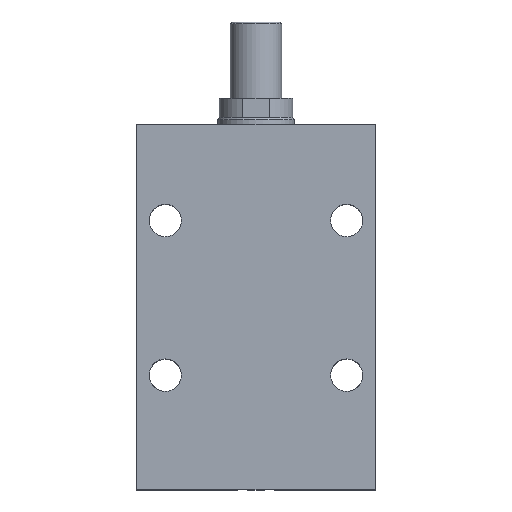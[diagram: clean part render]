
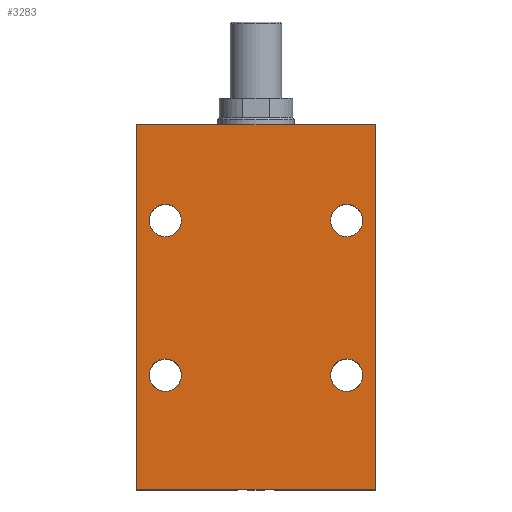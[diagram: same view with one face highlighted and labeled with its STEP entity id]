
A CAD part, top view. The second image highlights one B-rep face of the part: STEP entity #3283.
In plain terms, the highlighted planar face has unit normal (0, 0, 1).
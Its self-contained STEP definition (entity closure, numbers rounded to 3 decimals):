
#10 = LINE ( 'NONE', #705, #2853 ) ;
#13 = CARTESIAN_POINT ( 'NONE',  ( -39., 60., 47.5 ) ) ;
#71 = CARTESIAN_POINT ( 'NONE',  ( 62.5, 0., 47.5 ) ) ;
#114 = LINE ( 'NONE', #1668, #1826 ) ;
#120 = ORIENTED_EDGE ( 'NONE', *, *, #4792, .F. ) ;
#219 = CARTESIAN_POINT ( 'NONE',  ( -47.5, 141., 47.5 ) ) ;
#245 = CARTESIAN_POINT ( 'NONE',  ( 47.5, 60., 47.5 ) ) ;
#307 = VERTEX_POINT ( 'NONE', #1278 ) ;
#341 = PLANE ( 'NONE',  #3842 ) ;
#415 = AXIS2_PLACEMENT_3D ( 'NONE', #245, #2827, #618 ) ;
#552 = CARTESIAN_POINT ( 'NONE',  ( -39., 141., 47.5 ) ) ;
#575 = LINE ( 'NONE', #1600, #2301 ) ;
#595 = DIRECTION ( 'NONE',  ( 1., 0., 0. ) ) ;
#618 = DIRECTION ( 'NONE',  ( 1., 0., 0. ) ) ;
#704 = CARTESIAN_POINT ( 'NONE',  ( -47.5, 60., 47.5 ) ) ;
#705 = CARTESIAN_POINT ( 'NONE',  ( -62.5, 0., 47.5 ) ) ;
#711 = VERTEX_POINT ( 'NONE', #984 ) ;
#714 = DIRECTION ( 'NONE',  ( 0., 0., -1. ) ) ;
#737 = ORIENTED_EDGE ( 'NONE', *, *, #3266, .F. ) ;
#751 = FACE_BOUND ( 'NONE', #1491, .T. ) ;
#755 = CARTESIAN_POINT ( 'NONE',  ( 47.5, 60., 47.5 ) ) ;
#778 = CARTESIAN_POINT ( 'NONE',  ( 47.5, 141., 47.5 ) ) ;
#784 = ORIENTED_EDGE ( 'NONE', *, *, #1403, .F. ) ;
#792 = CIRCLE ( 'NONE', #2757, 8.5 ) ;
#953 = ORIENTED_EDGE ( 'NONE', *, *, #4748, .F. ) ;
#957 = VERTEX_POINT ( 'NONE', #2751 ) ;
#971 = DIRECTION ( 'NONE',  ( 0., -1., 0. ) ) ;
#984 = CARTESIAN_POINT ( 'NONE',  ( -56., 60., 47.5 ) ) ;
#1063 = CIRCLE ( 'NONE', #4479, 8.5 ) ;
#1068 = DIRECTION ( 'NONE',  ( 1., 0., 0. ) ) ;
#1075 = VERTEX_POINT ( 'NONE', #13 ) ;
#1115 = DIRECTION ( 'NONE',  ( 1., 0., 0. ) ) ;
#1153 = DIRECTION ( 'NONE',  ( 1., 0., 0. ) ) ;
#1217 = EDGE_CURVE ( 'NONE', #711, #1075, #3588, .T. ) ;
#1231 = DIRECTION ( 'NONE',  ( 0., 0., 1. ) ) ;
#1277 = VERTEX_POINT ( 'NONE', #4203 ) ;
#1278 = CARTESIAN_POINT ( 'NONE',  ( 39., 141., 47.5 ) ) ;
#1326 = ORIENTED_EDGE ( 'NONE', *, *, #4258, .T. ) ;
#1403 = EDGE_CURVE ( 'NONE', #2233, #2904, #1856, .T. ) ;
#1487 = CARTESIAN_POINT ( 'NONE',  ( 56., 141., 47.5 ) ) ;
#1491 = EDGE_LOOP ( 'NONE', ( #3428, #3984 ) ) ;
#1529 = VERTEX_POINT ( 'NONE', #1487 ) ;
#1542 = AXIS2_PLACEMENT_3D ( 'NONE', #755, #3360, #1115 ) ;
#1592 = EDGE_CURVE ( 'NONE', #1529, #307, #1063, .T. ) ;
#1600 = CARTESIAN_POINT ( 'NONE',  ( -62.5, 91., 47.5 ) ) ;
#1637 = CARTESIAN_POINT ( 'NONE',  ( 62.5, 191., 47.5 ) ) ;
#1658 = DIRECTION ( 'NONE',  ( 0., 0., 1. ) ) ;
#1668 = CARTESIAN_POINT ( 'NONE',  ( -62.5, 191., 47.5 ) ) ;
#1746 = FACE_BOUND ( 'NONE', #2314, .T. ) ;
#1796 = AXIS2_PLACEMENT_3D ( 'NONE', #3468, #1231, #3832 ) ;
#1826 = VECTOR ( 'NONE', #4664, 1000. ) ;
#1856 = CIRCLE ( 'NONE', #2308, 8.5 ) ;
#1877 = CIRCLE ( 'NONE', #1542, 8.5 ) ;
#2013 = EDGE_LOOP ( 'NONE', ( #737, #3486 ) ) ;
#2070 = CARTESIAN_POINT ( 'NONE',  ( -47.5, 141., 47.5 ) ) ;
#2195 = VERTEX_POINT ( 'NONE', #1637 ) ;
#2233 = VERTEX_POINT ( 'NONE', #552 ) ;
#2301 = VECTOR ( 'NONE', #2690, 1000. ) ;
#2302 = ORIENTED_EDGE ( 'NONE', *, *, #1592, .F. ) ;
#2308 = AXIS2_PLACEMENT_3D ( 'NONE', #2070, #4710, #2456 ) ;
#2314 = EDGE_LOOP ( 'NONE', ( #2302, #953 ) ) ;
#2383 = CARTESIAN_POINT ( 'NONE',  ( 62.5, 91., 47.5 ) ) ;
#2422 = CARTESIAN_POINT ( 'NONE',  ( 56., 60., 47.5 ) ) ;
#2456 = DIRECTION ( 'NONE',  ( 1., 0., 0. ) ) ;
#2545 = CIRCLE ( 'NONE', #3759, 8.5 ) ;
#2562 = CARTESIAN_POINT ( 'NONE',  ( -62.5, 91., 47.5 ) ) ;
#2579 = EDGE_LOOP ( 'NONE', ( #784, #120 ) ) ;
#2690 = DIRECTION ( 'NONE',  ( 0., -1., 0. ) ) ;
#2751 = CARTESIAN_POINT ( 'NONE',  ( -62.5, 191., 47.5 ) ) ;
#2757 = AXIS2_PLACEMENT_3D ( 'NONE', #3880, #1658, #4275 ) ;
#2796 = EDGE_CURVE ( 'NONE', #3801, #4586, #10, .T. ) ;
#2801 = DIRECTION ( 'NONE',  ( 0., 0., 1. ) ) ;
#2809 = AXIS2_PLACEMENT_3D ( 'NONE', #704, #3294, #1068 ) ;
#2827 = DIRECTION ( 'NONE',  ( 0., 0., 1. ) ) ;
#2853 = VECTOR ( 'NONE', #3296, 1000. ) ;
#2904 = VERTEX_POINT ( 'NONE', #3732 ) ;
#2988 = EDGE_LOOP ( 'NONE', ( #3625, #4774, #4647, #1326 ) ) ;
#3136 = EDGE_CURVE ( 'NONE', #2195, #4586, #3450, .T. ) ;
#3266 = EDGE_CURVE ( 'NONE', #1075, #711, #3724, .T. ) ;
#3283 = ADVANCED_FACE ( 'NONE', ( #1746, #3964, #751, #4743, #4622 ), #341, .F. ) ;
#3294 = DIRECTION ( 'NONE',  ( 0., 0., 1. ) ) ;
#3296 = DIRECTION ( 'NONE',  ( 1., 0., 0. ) ) ;
#3315 = DIRECTION ( 'NONE',  ( -1., 0., 0. ) ) ;
#3360 = DIRECTION ( 'NONE',  ( 0., 0., 1. ) ) ;
#3395 = DIRECTION ( 'NONE',  ( 0., 0., 1. ) ) ;
#3428 = ORIENTED_EDGE ( 'NONE', *, *, #4470, .F. ) ;
#3450 = LINE ( 'NONE', #2383, #4337 ) ;
#3468 = CARTESIAN_POINT ( 'NONE',  ( -47.5, 60., 47.5 ) ) ;
#3486 = ORIENTED_EDGE ( 'NONE', *, *, #1217, .F. ) ;
#3501 = CARTESIAN_POINT ( 'NONE',  ( -62.5, 0., 47.5 ) ) ;
#3588 = CIRCLE ( 'NONE', #1796, 8.5 ) ;
#3625 = ORIENTED_EDGE ( 'NONE', *, *, #2796, .T. ) ;
#3646 = EDGE_CURVE ( 'NONE', #1277, #4785, #3890, .T. ) ;
#3724 = CIRCLE ( 'NONE', #2809, 8.5 ) ;
#3732 = CARTESIAN_POINT ( 'NONE',  ( -56., 141., 47.5 ) ) ;
#3759 = AXIS2_PLACEMENT_3D ( 'NONE', #219, #2801, #595 ) ;
#3801 = VERTEX_POINT ( 'NONE', #3501 ) ;
#3832 = DIRECTION ( 'NONE',  ( 1., 0., 0. ) ) ;
#3842 = AXIS2_PLACEMENT_3D ( 'NONE', #2562, #714, #3315 ) ;
#3851 = EDGE_CURVE ( 'NONE', #957, #2195, #114, .T. ) ;
#3880 = CARTESIAN_POINT ( 'NONE',  ( 47.5, 141., 47.5 ) ) ;
#3890 = CIRCLE ( 'NONE', #415, 8.5 ) ;
#3964 = FACE_BOUND ( 'NONE', #2579, .T. ) ;
#3984 = ORIENTED_EDGE ( 'NONE', *, *, #3646, .F. ) ;
#4203 = CARTESIAN_POINT ( 'NONE',  ( 39., 60., 47.5 ) ) ;
#4258 = EDGE_CURVE ( 'NONE', #957, #3801, #575, .T. ) ;
#4275 = DIRECTION ( 'NONE',  ( 1., 0., 0. ) ) ;
#4337 = VECTOR ( 'NONE', #971, 1000. ) ;
#4470 = EDGE_CURVE ( 'NONE', #4785, #1277, #1877, .T. ) ;
#4479 = AXIS2_PLACEMENT_3D ( 'NONE', #778, #3395, #1153 ) ;
#4586 = VERTEX_POINT ( 'NONE', #71 ) ;
#4622 = FACE_OUTER_BOUND ( 'NONE', #2988, .T. ) ;
#4647 = ORIENTED_EDGE ( 'NONE', *, *, #3851, .F. ) ;
#4664 = DIRECTION ( 'NONE',  ( 1., 0., 0. ) ) ;
#4710 = DIRECTION ( 'NONE',  ( 0., 0., 1. ) ) ;
#4743 = FACE_BOUND ( 'NONE', #2013, .T. ) ;
#4748 = EDGE_CURVE ( 'NONE', #307, #1529, #792, .T. ) ;
#4774 = ORIENTED_EDGE ( 'NONE', *, *, #3136, .F. ) ;
#4785 = VERTEX_POINT ( 'NONE', #2422 ) ;
#4792 = EDGE_CURVE ( 'NONE', #2904, #2233, #2545, .T. ) ;
